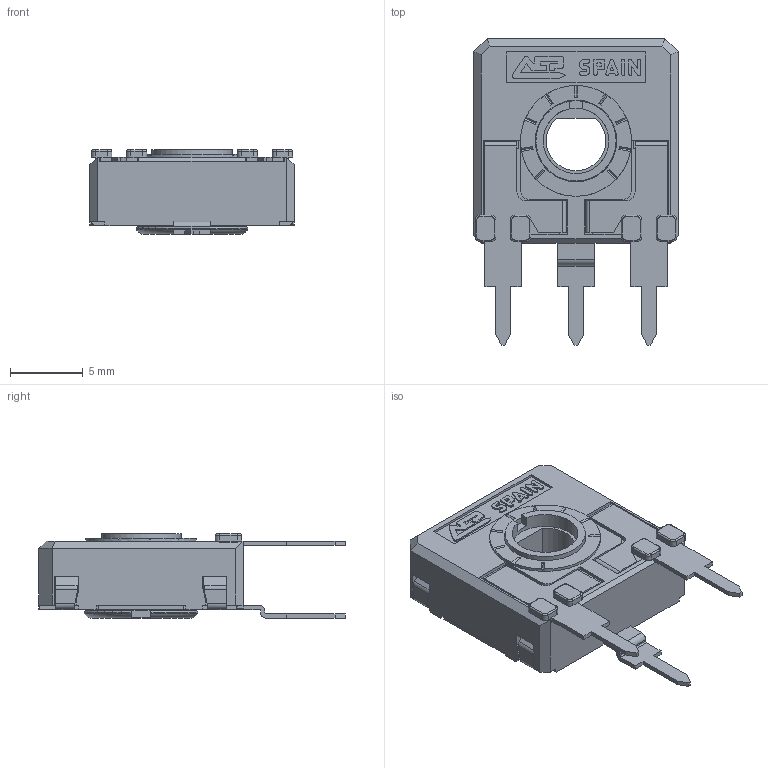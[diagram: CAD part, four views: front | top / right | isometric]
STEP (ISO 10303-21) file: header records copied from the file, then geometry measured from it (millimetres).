
FILE_DESCRIPTION(/* description */ (''),/* implementation_level */ '2;1');
FILE_NAME(/* name */ 'COMCA14DH5.stp',/* time_stamp */ '2026-04-01T16:27:48+02:00',/* author */ ('CEM'),/* organization */ (''),/* preprocessor_version */ 'ST-DEVELOPER v20.1',/* originating_system */ 'Autodesk Inventor 2026',/* authorisation */ '');
FILE_SCHEMA (('AUTOMOTIVE_DESIGN { 1 0 10303 214 3 1 1 }'));
Length unit declared in the file: millimetre
Products named in the file (1): CARCASA CA14 PGA
Bounding box: 14 x 21 x 5.8 mm (x, y, z)
Volume: 527.6 mm3; surface area: 1452.8 mm2
Topology: 1 solids, 1 shells, 664 faces, 1869 edges, 1201 vertices
Faces by surface type: plane 493, cylinder 134, torus 23, bspline 8, cone 6
Full cylindrical faces by diameter (mm): 4.5 x1, 5.5 x1, 5.6 x1, 5.752 x1, 6.8 x1, 7.6 x1
Entity records: 21625 total; most frequent: CARTESIAN_POINT 4032, ORIENTED_EDGE 3738, DIRECTION 3485, EDGE_CURVE 1869, LINE 1477, VECTOR 1477, VERTEX_POINT 1201, AXIS2_PLACEMENT_3D 1004
